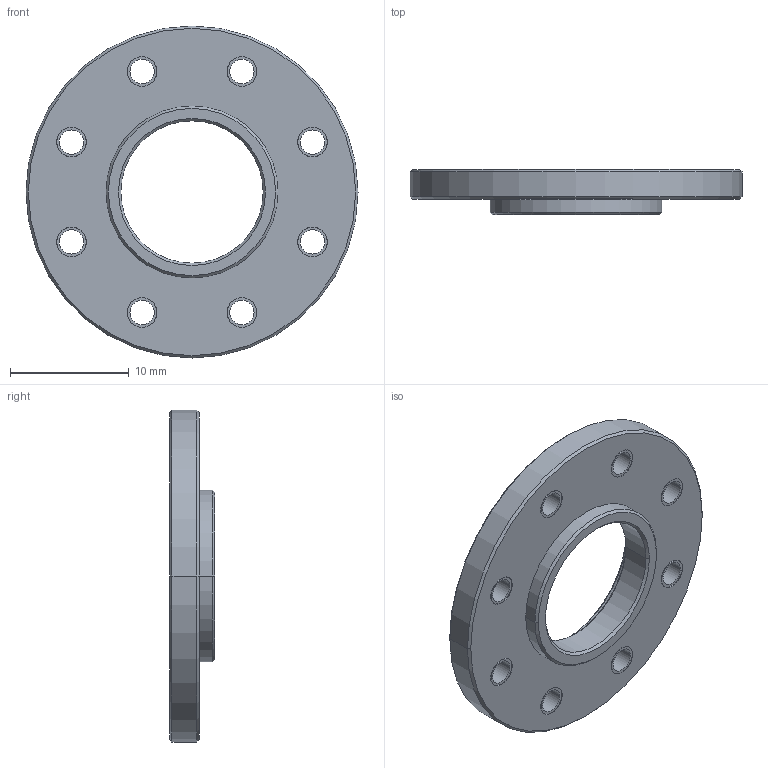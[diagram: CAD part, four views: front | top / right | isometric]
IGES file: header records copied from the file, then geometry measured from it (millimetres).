
Start section:  PTC IGES file: rx64_horn_idle.igs
Global section: file name: rx64_horn_idle.igs; native system: Pro/ENGINEER by Parametric Technology Corporation; preprocessor: 2006170; author: bono; organization: Unknown; date: 20061206.132102; units: millimetre
Bounding box: 28 x 3.82 x 28 mm (x, y, z)
Surface area: 2147.6 mm2 (no closed solid volume)
Topology: 0 solids, 0 shells, 88 faces, 768 edges, 976 vertices
Faces by surface type: revolution 84, bspline 4
